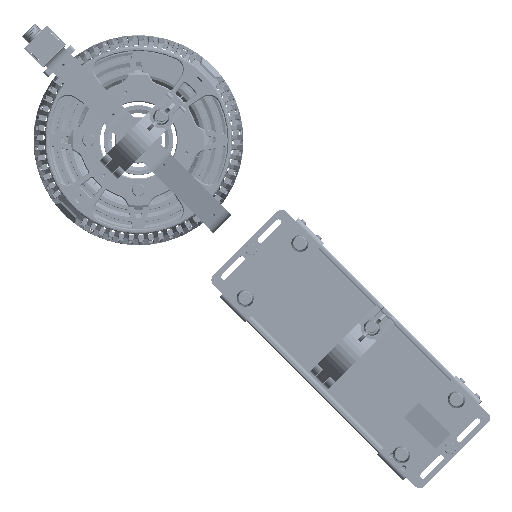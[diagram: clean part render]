
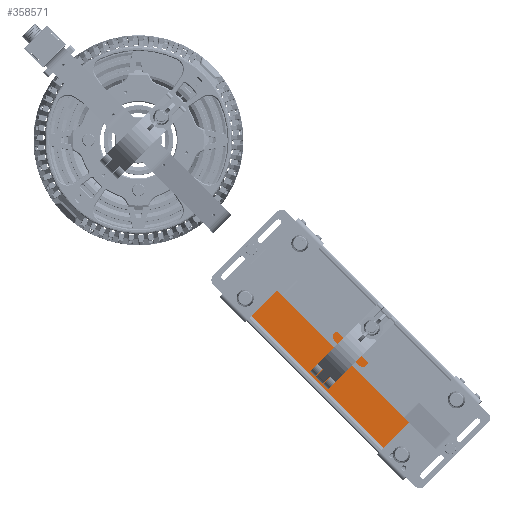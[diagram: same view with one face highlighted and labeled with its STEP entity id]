
A CAD part, top view. The second image highlights one B-rep face of the part: STEP entity #358571.
In plain terms, the highlighted planar face has unit normal (0, 0, 1) as drawn and (0, 0, -1) by its records, which use the part's own axes.
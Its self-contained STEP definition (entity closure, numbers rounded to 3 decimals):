
#10446 = VECTOR ( 'NONE', #68515, 1000. ) ;
#25854 = EDGE_CURVE ( 'NONE', #73296, #379328, #184877, .T. ) ;
#31772 = DIRECTION ( 'NONE',  ( 0., 0., 1. ) ) ;
#45924 = ORIENTED_EDGE ( 'NONE', *, *, #103774, .T. ) ;
#61531 = VERTEX_POINT ( 'NONE', #173336 ) ;
#68515 = DIRECTION ( 'NONE',  ( 0., 1., 0. ) ) ;
#73296 = VERTEX_POINT ( 'NONE', #360804 ) ;
#75027 = CARTESIAN_POINT ( 'NONE',  ( -54.5, 117.6, -20.9 ) ) ;
#92701 = ORIENTED_EDGE ( 'NONE', *, *, #25854, .F. ) ;
#102331 = VECTOR ( 'NONE', #108364, 1000. ) ;
#103774 = EDGE_CURVE ( 'NONE', #61531, #210220, #377940, .T. ) ;
#108364 = DIRECTION ( 'NONE',  ( -1., 0., 0. ) ) ;
#133603 = CARTESIAN_POINT ( 'NONE',  ( -57.5, -117.6, -20.9 ) ) ;
#148049 = PLANE ( 'NONE',  #363949 ) ;
#173336 = CARTESIAN_POINT ( 'NONE',  ( 3.5, -117.6, -20.9 ) ) ;
#175325 = ORIENTED_EDGE ( 'NONE', *, *, #244411, .F. ) ;
#181519 = CARTESIAN_POINT ( 'NONE',  ( -54.5, -117.6, -20.9 ) ) ;
#184877 = LINE ( 'NONE', #272185, #244085 ) ;
#199046 = VECTOR ( 'NONE', #288840, 1000. ) ;
#210220 = VERTEX_POINT ( 'NONE', #181519 ) ;
#215941 = LINE ( 'NONE', #332293, #10446 ) ;
#244085 = VECTOR ( 'NONE', #250755, 1000. ) ;
#244411 = EDGE_CURVE ( 'NONE', #61531, #73296, #215941, .T. ) ;
#250755 = DIRECTION ( 'NONE',  ( -1., 0., 0. ) ) ;
#266411 = CARTESIAN_POINT ( 'NONE',  ( -57.5, 117.6, -20.9 ) ) ;
#268306 = DIRECTION ( 'NONE',  ( 1., 0., 0. ) ) ;
#272185 = CARTESIAN_POINT ( 'NONE',  ( -57.5, 117.6, -20.9 ) ) ;
#286917 = CARTESIAN_POINT ( 'NONE',  ( -54.5, 117.6, -20.9 ) ) ;
#288840 = DIRECTION ( 'NONE',  ( 0., 1., 0. ) ) ;
#294654 = ORIENTED_EDGE ( 'NONE', *, *, #316690, .T. ) ;
#316690 = EDGE_CURVE ( 'NONE', #210220, #379328, #368497, .T. ) ;
#332293 = CARTESIAN_POINT ( 'NONE',  ( 3.5, -119.836, -20.9 ) ) ;
#334407 = EDGE_LOOP ( 'NONE', ( #45924, #294654, #92701, #175325 ) ) ;
#358571 = ADVANCED_FACE ( 'NONE', ( #359398 ), #148049, .F. ) ;
#359398 = FACE_OUTER_BOUND ( 'NONE', #334407, .T. ) ;
#360804 = CARTESIAN_POINT ( 'NONE',  ( 3.5, 117.6, -20.9 ) ) ;
#363949 = AXIS2_PLACEMENT_3D ( 'NONE', #266411, #31772, #268306 ) ;
#368497 = LINE ( 'NONE', #286917, #199046 ) ;
#377940 = LINE ( 'NONE', #133603, #102331 ) ;
#379328 = VERTEX_POINT ( 'NONE', #75027 ) ;
